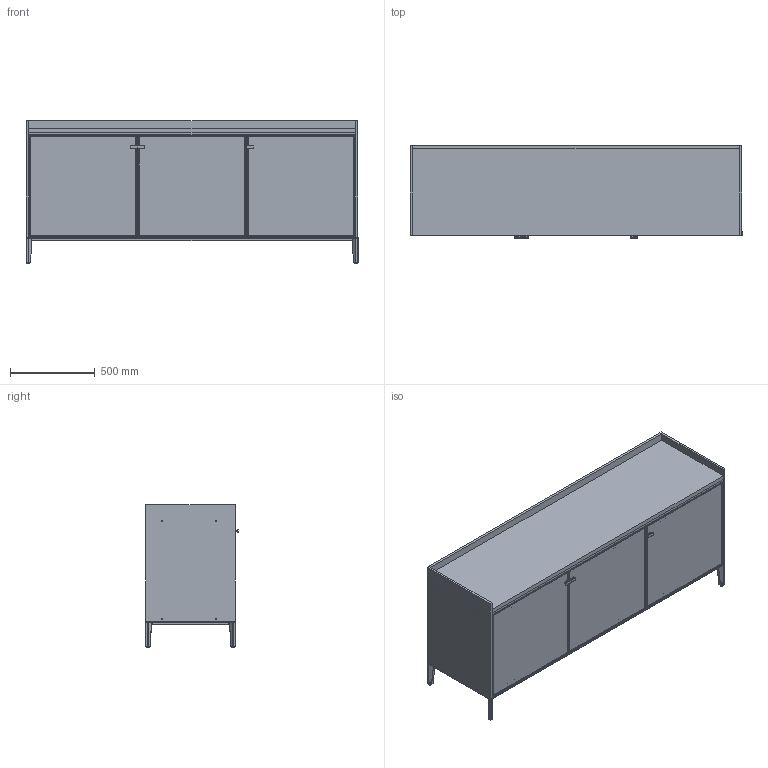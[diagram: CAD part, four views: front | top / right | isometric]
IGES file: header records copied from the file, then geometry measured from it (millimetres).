
Global section: file name: Z:\3D_LQ\2024-2025\madia-Klass\x-web\SEG260\3D_Segesta-196.igs; native system: Rhinoceros ( Aug 11 2021 ); preprocessor: Trout Lake IGES 012 Aug 11 2021; date: 250404.153124; units: millimetre
Bounding box: 1962 x 547.66 x 845 mm (x, y, z)
Surface area: 21029193.5 mm2 (no closed solid volume)
Topology: 0 solids, 0 shells, 1597 faces, 9160 edges, 9006 vertices
Faces by surface type: bspline 1597
